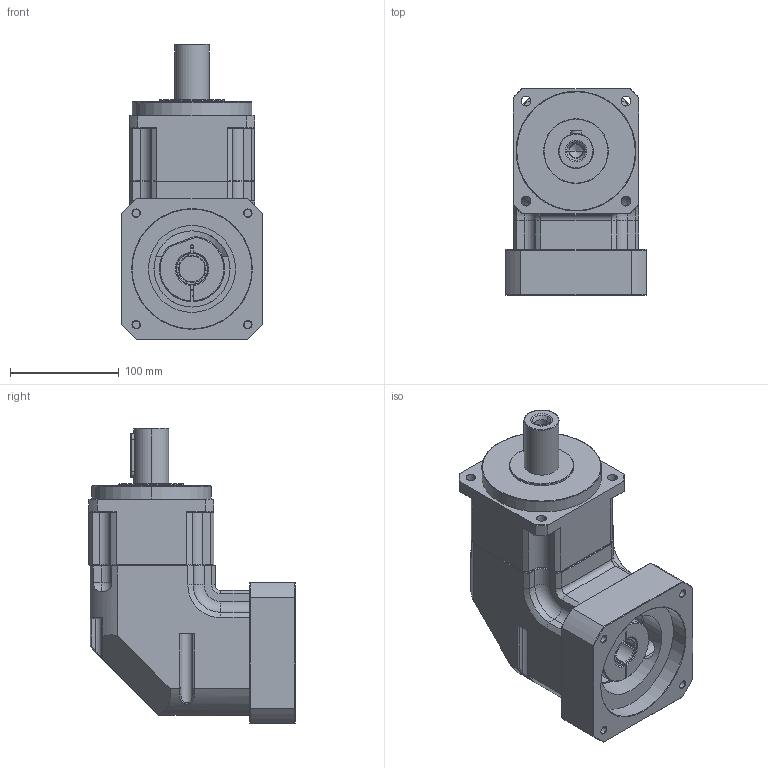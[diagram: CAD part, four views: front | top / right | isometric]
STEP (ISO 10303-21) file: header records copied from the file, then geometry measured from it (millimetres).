
FILE_DESCRIPTION (( 'STEP AP203' ), '1' );
FILE_NAME ('蚾饜极2.STEP', '2020-11-19T06:10:48', ( 'Windows 蚚誧' ), ( 'Microsoft' ), 'SwSTEP 2.0', 'SolidWorks 2017', '' );
FILE_SCHEMA (( 'CONFIG_CONTROL_DESIGN' ));
Length unit declared in the file: millimetre
Products named in the file (6): 蚾饜极2; TBR115-伞齿入力轴_2比; TBR115-L1-24-110-145-M8-63-10; 110-145-M8-42; TBR115-眊极; JJT-001
Assembly tree (5 placements, depth 2):
  蚾饜极2
    TBR115-L1-24-110-145-M8-63-10
    TBR115-眊极
    110-145-M8-42
    JJT-001
    TBR115-伞齿入力轴_2比
Bounding box: 130 x 189.75 x 271.5 mm (x, y, z)
Volume: 2415959.4 mm3; surface area: 291126.8 mm2
Topology: 6 solids, 10 shells, 524 faces, 1233 edges, 767 vertices
Faces by surface type: cylinder 218, plane 188, cone 84, torus 20, bspline 14
Entity records: 17104 total; most frequent: CARTESIAN_POINT 4432, DIRECTION 2610, ORIENTED_EDGE 2446, EDGE_CURVE 1223, AXIS2_PLACEMENT_3D 1043, VERTEX_POINT 767, EDGE_LOOP 598, CIRCLE 525
